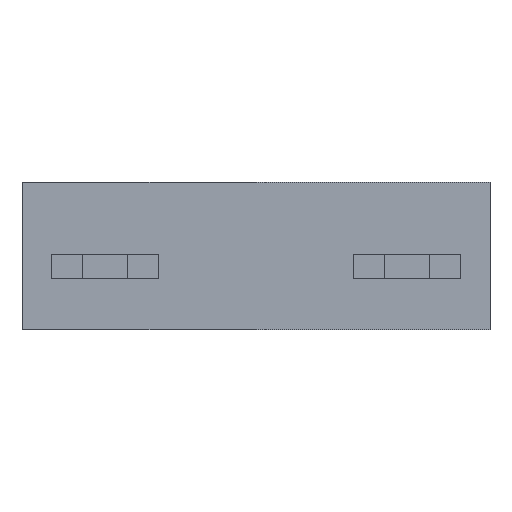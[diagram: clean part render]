
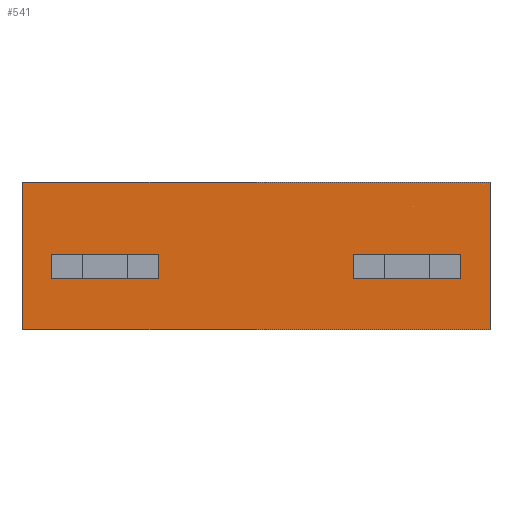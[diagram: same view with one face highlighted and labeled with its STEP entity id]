
A CAD part, front view. The second image highlights one B-rep face of the part: STEP entity #541.
In plain terms, the highlighted planar face has unit normal (0, -1, 0).
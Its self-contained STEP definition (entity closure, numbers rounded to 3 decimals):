
#28=PLANE('',#582);
#59=FACE_OUTER_BOUND('',#92,.T.);
#92=EDGE_LOOP('',(#424,#425,#426,#427));
#128=LINE('',#775,#196);
#133=LINE('',#786,#201);
#138=LINE('',#798,#206);
#140=LINE('',#802,#208);
#196=VECTOR('',#631,15.75);
#201=VECTOR('',#640,4.95);
#206=VECTOR('',#651,4.95);
#208=VECTOR('',#657,15.75);
#265=VERTEX_POINT('',#772);
#266=VERTEX_POINT('',#774);
#270=VERTEX_POINT('',#785);
#274=VERTEX_POINT('',#796);
#318=EDGE_CURVE('',#265,#266,#128,.T.);
#324=EDGE_CURVE('',#270,#266,#133,.T.);
#330=EDGE_CURVE('',#274,#265,#138,.T.);
#332=EDGE_CURVE('',#274,#270,#140,.T.);
#424=ORIENTED_EDGE('',*,*,#332,.T.);
#425=ORIENTED_EDGE('',*,*,#324,.T.);
#426=ORIENTED_EDGE('',*,*,#318,.F.);
#427=ORIENTED_EDGE('',*,*,#330,.F.);
#541=ADVANCED_FACE('',(#59),#28,.T.);
#582=AXIS2_PLACEMENT_3D('',#801,#655,#656);
#631=DIRECTION('',(1.,0.,0.));
#640=DIRECTION('',(0.,0.,1.));
#651=DIRECTION('',(0.,0.,1.));
#655=DIRECTION('center_axis',(0.,-1.,0.));
#656=DIRECTION('ref_axis',(1.,0.,0.));
#657=DIRECTION('',(1.,0.,0.));
#772=CARTESIAN_POINT('',(0.,0.,4.95));
#774=CARTESIAN_POINT('',(15.75,0.,4.95));
#775=CARTESIAN_POINT('',(0.,0.,4.95));
#785=CARTESIAN_POINT('',(15.75,0.,0.));
#786=CARTESIAN_POINT('',(15.75,0.,0.));
#796=CARTESIAN_POINT('',(0.,0.,0.));
#798=CARTESIAN_POINT('',(0.,0.,0.));
#801=CARTESIAN_POINT('Origin',(0.,0.,0.));
#802=CARTESIAN_POINT('',(0.,0.,0.));
